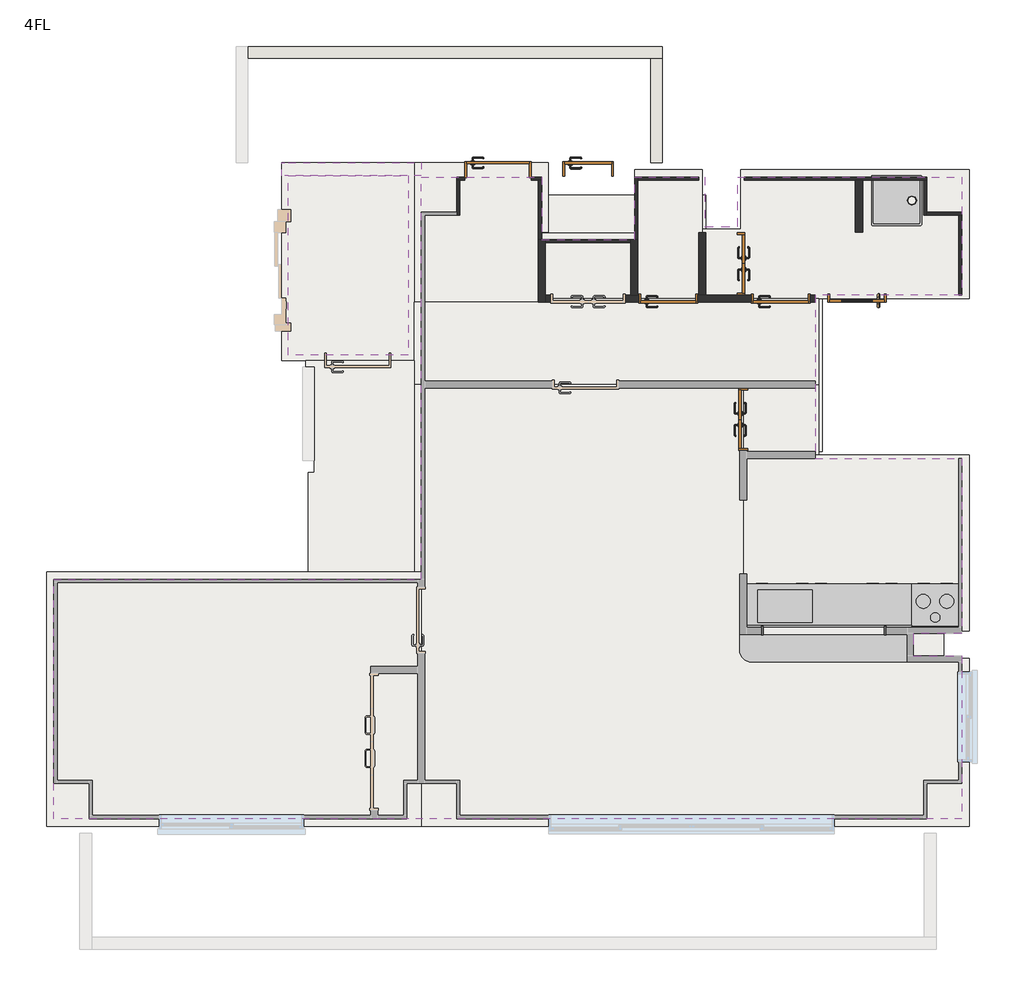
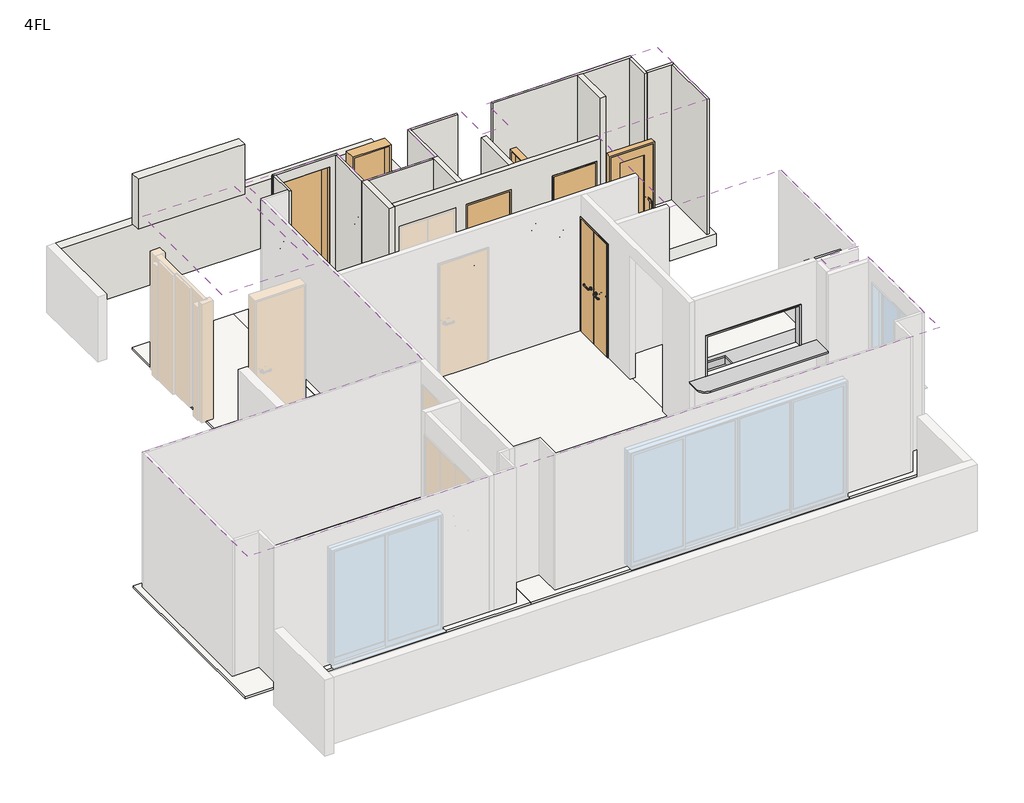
# One storey, part 2 of 2: 18 walls, 16 slabs, 7 doors, 2 coverings, 2 flow terminals, 1 furniture element, 1 proxy.
"""IFC4 building model written with IfcOpenShell, lengths in millimetres."""

from ifc_helpers import new_model, si_unit, frame, origin, place, context, project, spatial, polyline, outline, extrude, faceted_brep, transform, mapped, element, save
from components import w1550h700_1b11893a, w750h2000_bb28a540, w750h2000_3b39e6d6, w750h2000_741aa240, w750h2000_0d8cda2a, w600h2200_8a8f31b7, w700h2000_46fb6d5c, w700h2000_2dbcf825, w800h2200_b9bfe460, flow_terminal_9508bbe0, flow_terminal_4e89506a, furniture_a4760ea0

model = new_model("IFC4")

# Units and contexts
model_context = context("Model", 3, world=origin())
ifc_project = project(units=[si_unit("LENGTHUNIT", "METRE", prefix="MILLI")], contexts=[model_context])

# Site, building, storey
site = spatial("IfcSite", under=ifc_project)
building = spatial("IfcBuilding", under=site)
storey = spatial("IfcBuildingStorey", under=building, Name="4FL", Elevation=9395.0)

# Proxy
placement = place(None, origin())
w1550h700_shape = w1550h700_1b11893a(model_context)
element("IfcBuildingElementProxy", 1, Name="開口枠 - 鋼製 1 : W1550H700", ObjectType="開口枠 - 鋼製 1 : W1550H700", at=placement, inside=storey, context=model_context, shape_type="MappedRepresentation", body=[
    mapped(w1550h700_shape, transform((6358.2341012, -2426.3998484, 10395.0), x_axis=(-1.0, 0.0, 0.0), y_axis=(0.0, -1.0, 0.0), z_axis=(0.0, 0.0, 1.0))),
])

# Coverings
element("IfcCovering", 2, ObjectType="化粧石膏ボード", at=placement, inside=storey, context=model_context, shape_type="SweptSolid", body=[
    extrude(outline(polyline([(4710.7341012, 3378.6001516), (4710.7341012, 2746.1001516), (5135.7341012, 2746.1001516), (5135.7341012, 3378.6001516), (7998.2341012, 3378.6001516), (7998.2341012, 1868.6001516), (6123.2341012, 1868.6001516), (6123.2341012, -221.3998484), (7998.2341012, -221.3998484), (7998.2341012, -2458.8998484), (7375.7341012, -2458.8998484), (7375.7341012, -2748.8998484), (7998.2341012, -2748.8998484), (7998.2341012, -4831.3998484), (-3611.7658988, -4831.3998484), (-3611.7658988, -1771.3998484), (1088.2341012, -1771.3998484), (1088.2341012, 3378.6001516), (2623.2341012, 3378.6001516), (2623.2341012, 2578.6001516), (3813.2341012, 2578.6001516), (3813.2341012, 3378.6001516), (4710.7341012, 3378.6001516)])), frame((0.0, 0.0, 11795.0), z_axis=(0.0, 0.0, 1.0), x_axis=(1.0, 0.0, 0.0)), (0.0, 0.0, 1.0), 9.5),
])
element("IfcCovering", 3, ObjectType="化粧石膏ボード", at=placement, inside=storey, context=model_context, shape_type="SweptSolid", body=[
    extrude(outline(polyline([(918.2341012, 3398.6001516), (918.2341012, 1098.6001516), (-616.7658988, 1098.6001516), (-616.7658988, 3398.6001516), (918.2341012, 3398.6001516)])), frame((0.0, 0.0, 11795.0), z_axis=(0.0, 0.0, 1.0), x_axis=(1.0, 0.0, 0.0)), (0.0, 0.0, 1.0), 9.5),
])

# Doors
w750h2000_shape = w750h2000_bb28a540(model_context)
w750h2000_2_shape = w750h2000_3b39e6d6(model_context)
element("IfcDoor", 4, ObjectType="両開き : W750H2000", at=placement, inside=storey, context=model_context, shape_type="MappedRepresentation", body=[
    mapped(w750h2000_shape, transform((5203.2341012, 278.6001516, 9395.0), x_axis=(0.0, 1.0, 0.0), y_axis=(-1.0, 0.0, 0.0), z_axis=(0.0, 0.0, 1.0))),
    mapped(w750h2000_2_shape, transform((5203.2341012, 278.6001516, 9395.0), x_axis=(0.0, 1.0, 0.0), y_axis=(-1.0, 0.0, 0.0), z_axis=(0.0, 0.0, 1.0))),
])
w750h2000_3_shape = w750h2000_741aa240(model_context)
w750h2000_4_shape = w750h2000_0d8cda2a(model_context)
element("IfcDoor", 5, ObjectType="両開き : W750H2000", at=placement, inside=storey, context=model_context, shape_type="MappedRepresentation", body=[
    mapped(w750h2000_3_shape, transform((5174.4841012, 2268.6001516, 9395.0), x_axis=(0.0, -1.0, 0.0), y_axis=(1.0, 0.0, 0.0), z_axis=(0.0, 0.0, 1.0))),
    mapped(w750h2000_4_shape, transform((5174.4841012, 2268.6001516, 9395.0), x_axis=(0.0, -1.0, 0.0), y_axis=(1.0, 0.0, 0.0), z_axis=(0.0, 0.0, 1.0))),
])
w600h2200_shape = w600h2200_8a8f31b7(model_context)
element("IfcDoor", 6, ObjectType="片開き : w600h2200", at=placement, inside=storey, context=model_context, shape_type="MappedRepresentation", body=[
    mapped(w600h2200_shape, transform((3218.2341012, 3481.1001516, 9395.0), x_axis=(1.0, 0.0, 0.0), y_axis=(0.0, 1.0, 0.0), z_axis=(0.0, 0.0, 1.0))),
])
w700h2000_shape = w700h2000_46fb6d5c(model_context)
element("IfcDoor", 7, ObjectType="片開き : w700h2000", at=placement, inside=storey, context=model_context, shape_type="MappedRepresentation", body=[
    mapped(w700h2000_shape, transform((4243.2341012, 1823.6001516, 9395.0), x_axis=(1.0, 0.0, 0.0), y_axis=(0.0, 1.0, 0.0), z_axis=(0.0, 0.0, 1.0))),
])
element("IfcDoor", 8, ObjectType="片開き : w700h2000", at=placement, inside=storey, context=model_context, shape_type="MappedRepresentation", body=[
    mapped(w700h2000_shape, transform((5683.2341012, 1823.6001516, 9395.0), x_axis=(1.0, 0.0, 0.0), y_axis=(0.0, 1.0, 0.0), z_axis=(0.0, 0.0, 1.0))),
])
w700h2000_2_shape = w700h2000_2dbcf825(model_context)
element("IfcDoor", 9, ObjectType="片開き_ガラス四方框 : w700h2000", at=placement, inside=storey, context=model_context, shape_type="MappedRepresentation", body=[
    mapped(w700h2000_2_shape, transform((6658.2341012, 1829.8501516, 9395.0), x_axis=(-1.0, 0.0, 0.0), y_axis=(0.0, -1.0, 0.0), z_axis=(0.0, 0.0, 1.0))),
])
w800h2200_shape = w800h2200_b9bfe460(model_context)
element("IfcDoor", 10, ObjectType="片開き : w800h2200", at=placement, inside=storey, context=model_context, shape_type="MappedRepresentation", body=[
    mapped(w800h2200_shape, transform((2068.2341012, 3471.1001516, 9395.0), x_axis=(1.0, 0.0, 0.0), y_axis=(0.0, 1.0, 0.0), z_axis=(0.0, 0.0, 1.0))),
])

# Flow terminals
flow_terminal_shape = flow_terminal_9508bbe0(model_context)
element("IfcFlowTerminal", 11, ObjectType="洗濯機パン : 洗濯機パン", at=placement, inside=storey, context=model_context, shape_type="MappedRepresentation", body=[
    mapped(flow_terminal_shape, transform((7163.2341012, 3078.6001516, 9395.0), x_axis=(1.0, 0.0, 0.0), y_axis=(0.0, 1.0, 0.0), z_axis=(0.0, 0.0, 1.0))),
])
flow_terminal_2_shape = flow_terminal_4e89506a(model_context)
element("IfcFlowTerminal", 12, ObjectType="システムキッチンIH : システムキッチンIH\u3000W2710", at=placement, inside=storey, context=model_context, shape_type="MappedRepresentation", body=[
    mapped(flow_terminal_2_shape, transform((7958.2341012, -2381.3998484, 9395.0), x_axis=(1.0, 0.0, 0.0), y_axis=(0.0, 1.0, 0.0), z_axis=(0.0, 0.0, 1.0))),
])

# Furniture
furniture_shape = furniture_a4760ea0(model_context)
element("IfcFurniture", 13, ObjectType="キッチンカウンター : キッチンカウンター", at=placement, inside=storey, context=model_context, shape_type="MappedRepresentation", body=[
    mapped(furniture_shape, transform((7298.2341012, -2381.3998484, 9395.0), x_axis=(1.0, 0.0, 0.0), y_axis=(0.0, 1.0, 0.0), z_axis=(0.0, 0.0, 1.0))),
])

# Slabs
element("IfcSlab", 14, ObjectType="一般180mm", at=placement, inside=storey, context=model_context, shape_type="Brep", body=[
    faceted_brep([(918.2341012, -1751.3998484, 9180.0), (918.2341012, -1771.3998484, 9180.0), (918.2341012, -4601.3998484, 9180.0), (-3381.7658988, -4601.3998484, 9180.0), (-3381.7658988, -1771.3998484, 9180.0), (-3381.7658988, -1751.3998484, 9180.0), (918.2341012, -1751.3998484, 9360.0), (-3381.7658988, -1751.3998484, 9360.0), (-3381.7658988, -1771.3998484, 9360.0), (-3381.7658988, -4601.3998484, 9360.0), (918.2341012, -4601.3998484, 9360.0), (918.2341012, -1771.3998484, 9360.0)], [[[0, 1, 2, 3, 4, 5]], [[6, 7, 8, 9, 10, 11]], [[2, 1, 0, 6, 11, 10]], [[3, 2, 10, 9]], [[5, 4, 3, 9, 8, 7]], [[0, 5, 7, 6]]]),
])
element("IfcSlab", 15, ObjectType="一般180mm", at=placement, inside=storey, context=model_context, shape_type="SweptSolid", body=[
    extrude(outline(polyline([(918.2341012, 1298.6001516), (-481.7658988, 1298.6001516), (-481.7658988, 3148.6001516), (918.2341012, 3148.6001516), (918.2341012, 1298.6001516)])), frame((0.0, 0.0, 9180.0), z_axis=(0.0, 0.0, 1.0), x_axis=(1.0, 0.0, 0.0)), (0.0, 0.0, 1.0), 180.0),
])
element("IfcSlab", 16, ObjectType="一般180mm", at=placement, inside=storey, context=model_context, shape_type="SweptSolid", body=[
    extrude(outline(polyline([(7768.2341012, -481.3998484), (7768.2341012, -4601.3998484), (1318.2341012, -4601.3998484), (1318.2341012, -481.3998484), (7768.2341012, -481.3998484)])), frame((0.0, 0.0, 9180.0), z_axis=(0.0, 0.0, 1.0), x_axis=(1.0, 0.0, 0.0)), (0.0, 0.0, 1.0), 180.0),
])
element("IfcSlab", 17, ObjectType="一般180mm", at=placement, inside=storey, context=model_context, shape_type="Brep", body=[
    faceted_brep([(6213.2341012, -131.3998484, 9180.0), (5853.2341012, -131.3998484, 9180.0), (1318.2341012, -131.3998484, 9180.0), (1318.2341012, 3148.6001516, 9180.0), (4363.2341012, 3148.6001516, 9180.0), (4723.2341012, 3148.6001516, 9180.0), (4723.2341012, 1868.6001516, 9180.0), (6213.2341012, 1868.6001516, 9180.0), (6213.2341012, -131.3998484, 9360.0), (6213.2341012, 1868.6001516, 9360.0), (4723.2341012, 1868.6001516, 9360.0), (4723.2341012, 3148.6001516, 9360.0), (1318.2341012, 3148.6001516, 9360.0), (1318.2341012, -131.3998484, 9360.0)], [[[0, 1, 2, 3, 4, 5, 6, 7]], [[8, 9, 10, 11, 12, 13]], [[2, 1, 0, 8, 13]], [[3, 2, 13, 12]], [[5, 4, 3, 12, 11]], [[6, 5, 11, 10]], [[7, 6, 10, 9]], [[0, 7, 9, 8]]]),
])
element("IfcSlab", 18, ObjectType="一般180mm", at=placement, inside=storey, context=model_context, shape_type="SweptSolid", body=[
    extrude(outline(polyline([(918.2341012, -1601.3998484), (-356.7658988, -1601.3998484), (-356.7658988, -401.3998484), (-281.7658988, -401.3998484), (-281.7658988, -251.3998484), (-391.7658988, -251.3998484), (-391.7658988, 948.6001516), (918.2341012, 948.6001516), (918.2341012, -1601.3998484)])), frame((0.0, 0.0, 9180.0), z_axis=(0.0, 0.0, 1.0), x_axis=(1.0, 0.0, 0.0)), (0.0, 0.0, 1.0), 180.0),
])
element("IfcSlab", 19, ObjectType="磁器タイル", at=placement, inside=storey, context=model_context, shape_type="SweptSolid", body=[
    extrude(outline(polyline([(995.7341012, 1778.6001516), (995.7341012, 3563.6001516), (2708.2341012, 3563.6001516), (2708.2341012, 2673.6001516), (2628.2341012, 2673.6001516), (2628.2341012, 1778.6001516), (995.7341012, 1778.6001516)])), frame((0.0, 0.0, 9360.0), z_axis=(0.0, 0.0, 1.0), x_axis=(1.0, 0.0, 0.0)), (0.0, 0.0, 1.0), 35.0),
])
element("IfcSlab", 20, ObjectType="フローリング", at=placement, inside=storey, context=model_context, shape_type="SweptSolid", body=[
    extrude(outline(polyline([(2628.2341012, 1778.6001516), (2628.2341012, 1823.6001516), (6168.2341012, 1823.6001516), (6168.2341012, 723.6001516), (993.2341012, 723.6001516), (993.2341012, 1778.6001516), (2628.2341012, 1778.6001516)])), frame((0.0, 0.0, 9360.0), z_axis=(0.0, 0.0, 1.0), x_axis=(1.0, 0.0, 0.0)), (0.0, 0.0, 1.0), 35.0),
])
element("IfcSlab", 21, ObjectType="フローリング", at=placement, inside=storey, context=model_context, shape_type="SweptSolid", body=[
    extrude(outline(polyline([(3808.2341012, 1823.6001516), (3693.2341012, 1823.6001516), (2743.2341012, 1823.6001516), (2628.2341012, 1823.6001516), (2628.2341012, 2663.6001516), (3808.2341012, 2663.6001516), (3808.2341012, 1823.6001516)])), frame((0.0, 0.0, 9360.0), z_axis=(0.0, 0.0, 1.0), x_axis=(1.0, 0.0, 0.0)), (0.0, 0.0, 1.0), 35.0),
])
element("IfcSlab", 22, ObjectType="フローリング", at=placement, inside=storey, context=model_context, shape_type="SweptSolid", body=[
    extrude(outline(polyline([(4678.2341012, 1823.6001516), (3813.2341012, 1823.6001516), (3813.2341012, 3471.1001516), (4678.2341012, 3471.1001516), (4678.2341012, 1823.6001516)])), frame((0.0, 0.0, 9360.0), z_axis=(0.0, 0.0, 1.0), x_axis=(1.0, 0.0, 0.0)), (0.0, 0.0, 1.0), 35.0),
])
element("IfcSlab", 23, ObjectType="クッションフロアシート", at=placement, inside=storey, context=model_context, shape_type="SweptSolid", body=[
    extrude(outline(polyline([(4678.2341012, 2713.6001516), (5168.2341012, 2713.6001516), (5168.2341012, 3473.6001516), (8093.2341012, 3473.6001516), (8093.2341012, 1823.6001516), (4678.2341012, 1823.6001516), (4678.2341012, 2713.6001516)])), frame((0.0, 0.0, 9180.0), z_axis=(0.0, 0.0, 1.0), x_axis=(1.0, 0.0, 0.0)), (0.0, 0.0, 1.0), 215.0),
])
element("IfcSlab", 24, ObjectType="フローリング", at=placement, inside=storey, context=model_context, shape_type="Brep", body=[
    faceted_brep([(1083.2341012, -1676.3998484, 9360.0), (1083.2341012, -1751.3998484, 9360.0), (1083.2341012, -1771.3998484, 9360.0), (1083.2341012, -4926.3998484, 9360.0), (-3706.7658988, -4926.3998484, 9360.0), (-3706.7658988, -1676.3998484, 9360.0), (-3631.7658988, -1676.3998484, 9360.0), (1083.2341012, -1676.3998484, 9395.0), (-3631.7658988, -1676.3998484, 9395.0), (-3706.7658988, -1676.3998484, 9395.0), (-3706.7658988, -4926.3998484, 9395.0), (1083.2341012, -4926.3998484, 9395.0), (1083.2341012, -1771.3998484, 9395.0)], [[[0, 1, 2, 3, 4, 5, 6]], [[7, 8, 9, 10, 11, 12]], [[3, 2, 1, 0, 7, 12, 11]], [[4, 3, 11, 10]], [[5, 4, 10, 9]], [[0, 6, 5, 9, 8, 7]]]),
])
element("IfcSlab", 25, ObjectType="フローリング", at=placement, inside=storey, context=model_context, shape_type="Brep", body=[
    faceted_brep([(993.2341012, 723.6001516, 9360.0), (1068.2341012, 723.6001516, 9360.0), (1088.2341012, 723.6001516, 9360.0), (5203.2341012, 723.6001516, 9360.0), (5203.2341012, -2426.3998484, 9360.0), (7343.2341012, -2426.3998484, 9360.0), (7343.2341012, -2781.3998484, 9360.0), (8093.2341012, -2781.3998484, 9360.0), (8093.2341012, -4926.3998484, 9360.0), (1083.2341012, -4926.3998484, 9360.0), (1083.2341012, -1785.1498484, 9360.0), (993.2341012, -1785.1498484, 9360.0), (993.2341012, 723.6001516, 9395.0), (993.2341012, -1785.1498484, 9395.0), (1083.2341012, -1785.1498484, 9395.0), (1083.2341012, -4926.3998484, 9395.0), (8093.2341012, -4926.3998484, 9395.0), (8093.2341012, -2781.3998484, 9395.0), (7343.2341012, -2781.3998484, 9395.0), (7343.2341012, -2426.3998484, 9395.0), (5203.2341012, -2426.3998484, 9395.0), (5203.2341012, 723.6001516, 9395.0), (1088.2341012, 723.6001516, 9395.0)], [[[0, 1, 2, 3, 4, 5, 6, 7, 8, 9, 10, 11]], [[12, 13, 14, 15, 16, 17, 18, 19, 20, 21, 22]], [[0, 11, 13, 12]], [[3, 2, 1, 0, 12, 22, 21]], [[4, 3, 21, 20]], [[5, 4, 20, 19]], [[6, 5, 19, 18]], [[7, 6, 18, 17]], [[8, 7, 17, 16]], [[9, 8, 16, 15]], [[10, 9, 15, 14]], [[11, 10, 14, 13]]]),
])
element("IfcSlab", 26, ObjectType="フローリング", at=placement, inside=storey, context=model_context, shape_type="SweptSolid", body=[
    extrude(outline(polyline([(8093.2341012, -2426.3998484), (5203.2341012, -2426.3998484), (5203.2341012, -176.3998484), (8093.2341012, -176.3998484), (8093.2341012, -2426.3998484)])), frame((0.0, 0.0, 9360.0), z_axis=(0.0, 0.0, 1.0), x_axis=(1.0, 0.0, 0.0)), (0.0, 0.0, 1.0), 35.0),
])
element("IfcSlab", 27, ObjectType="フローリング", at=placement, inside=storey, context=model_context, shape_type="Brep", body=[
    faceted_brep([(6168.2341012, -176.3998484, 9360.0), (6123.2341012, -176.3998484, 9360.0), (5203.2341012, -176.3998484, 9360.0), (5203.2341012, 723.6001516, 9360.0), (6123.2341012, 723.6001516, 9360.0), (6168.2341012, 723.6001516, 9360.0), (6168.2341012, -176.3998484, 9395.0), (6168.2341012, 723.6001516, 9395.0), (6123.2341012, 723.6001516, 9395.0), (5203.2341012, 723.6001516, 9395.0), (5203.2341012, -176.3998484, 9395.0), (6123.2341012, -176.3998484, 9395.0)], [[[0, 1, 2, 3, 4, 5]], [[6, 7, 8, 9, 10, 11]], [[2, 1, 0, 6, 11, 10]], [[3, 2, 10, 9]], [[5, 4, 3, 9, 8, 7]], [[0, 5, 7, 6]]]),
])
element("IfcSlab", 28, ObjectType="防滑性長尺塩ビシート", at=placement, inside=storey, context=model_context, shape_type="Brep", body=[
    faceted_brep([(993.2341012, -1676.3998484, 9360.0), (-356.7658988, -1676.3998484, 9360.0), (-356.7658988, -401.3998484, 9360.0), (-281.7658988, -401.3998484, 9360.0), (-281.7658988, -251.3998484, 9360.0), (-391.7658988, -251.3998484, 9360.0), (-391.7658988, 1031.1001516, 9360.0), (918.2341012, 1031.1001516, 9360.0), (993.2341012, 1031.1001516, 9360.0), (993.2341012, 723.6001516, 9360.0), (993.2341012, -1676.3998484, 9395.0), (993.2341012, 723.6001516, 9395.0), (993.2341012, 1031.1001516, 9395.0), (918.2341012, 1031.1001516, 9395.0), (-391.7658988, 1031.1001516, 9395.0), (-391.7658988, -251.3998484, 9395.0), (-281.7658988, -251.3998484, 9395.0), (-281.7658988, -401.3998484, 9395.0), (-356.7658988, -401.3998484, 9395.0), (-356.7658988, -1676.3998484, 9395.0)], [[[0, 1, 2, 3, 4, 5, 6, 7, 8, 9]], [[10, 11, 12, 13, 14, 15, 16, 17, 18, 19]], [[1, 0, 10, 19]], [[8, 7, 6, 14, 13, 12]], [[0, 9, 8, 12, 11, 10]], [[6, 5, 15, 14]], [[2, 1, 19, 18]], [[3, 2, 18, 17]], [[4, 3, 17, 16]], [[5, 4, 16, 15]]]),
])
element("IfcSlab", 29, ObjectType="磁器タイル", at=placement, inside=storey, context=model_context, shape_type="SweptSolid", body=[
    extrude(outline(polyline([(995.7341012, 1031.1001516), (-699.2658988, 1031.1001516), (-699.2658988, 3563.6001516), (995.7341012, 3563.6001516), (995.7341012, 1031.1001516)])), frame((0.0, 0.0, 9360.0), z_axis=(0.0, 0.0, 1.0), x_axis=(1.0, 0.0, 0.0)), (0.0, 0.0, 1.0), 35.0),
])

# Walls
element("IfcWall", 30, ObjectType="標準-120mm+15mm+15mm", at=placement, inside=storey, context=model_context, shape_type="Brep", body=[
    faceted_brep([(4168.2341012, 4898.6001516, 10495.0), (4018.2341012, 4898.6001516, 10495.0), (-1131.7658988, 4898.6001516, 10495.0), (-1131.7658988, 4898.6001516, 9318.030303), (4168.2341012, 4898.6001516, 9318.030303), (-1131.7658988, 5048.6001516, 10495.0), (4168.2341012, 5048.6001516, 10495.0), (4168.2341012, 5048.6001516, 9315.0), (-1131.7658988, 5048.6001516, 9315.0)], [[[0, 1, 2, 3, 4]], [[5, 6, 7, 8]], [[2, 1, 0, 6, 5]], [[6, 0, 4, 7]], [[2, 5, 8, 3]], [[4, 3, 8, 7]]]),
])
element("IfcWall", 31, ObjectType="標準-120mm+15mm+15mm", at=placement, inside=storey, context=model_context, shape_type="SweptSolid", body=[
    extrude(outline(polyline([(3563.6001516, 10495.0), (4898.6001516, 10495.0), (4898.6001516, 9318.030303), (3563.6001516, 9345.0), (3563.6001516, 10495.0)])), frame((4018.2341012, 0.0, 0.0), z_axis=(1.0, 0.0, 0.0), x_axis=(0.0, 1.0, 0.0)), (0.0, 0.0, 1.0), 150.0),
])
element("IfcWall", 32, ObjectType="外壁-150mm+15mm", at=placement, inside=storey, context=model_context, shape_type="Brep", body=[
    faceted_brep([(-699.2658988, 3398.6001516, 11595.0), (-616.7658988, 3398.6001516, 11595.0), (903.2341012, 3398.6001516, 11595.0), (1088.2341012, 3398.6001516, 11595.0), (1088.2341012, 3398.6001516, 12480.0), (903.2341012, 3398.6001516, 12480.0), (-616.7658988, 3398.6001516, 12480.0), (-699.2658988, 3398.6001516, 12480.0), (-699.2658988, 3398.6001516, 11880.0), (-699.2658988, 3563.6001516, 11595.0), (-699.2658988, 3563.6001516, 12480.0), (1088.2341012, 3563.6001516, 12480.0), (1088.2341012, 3563.6001516, 11595.0), (903.2341012, 3563.6001516, 11595.0), (-616.7658988, 3563.6001516, 11595.0), (-699.2658988, 3548.6001516, 12480.0)], [[[0, 1, 2, 3, 4, 5, 6, 7, 8]], [[9, 10, 11, 12, 13, 14]], [[3, 2, 1, 0, 9, 14, 13, 12]], [[7, 6, 5, 4, 11, 10, 15]], [[0, 8, 7, 15, 10, 9]], [[4, 3, 12, 11]]]),
])
element("IfcWall", 33, ObjectType="標準-12.5mm+65ｍｍ+12.5mm", at=placement, inside=storey, context=model_context, shape_type="Brep", body=[
    faceted_brep([(3763.2341012, 2578.6001516, 9395.0), (3763.2341012, 2538.6001516, 9395.0), (3763.2341012, 1868.6001516, 9395.0), (3763.2341012, 1868.6001516, 11795.0), (3763.2341012, 2538.6001516, 11795.0), (3763.2341012, 2578.6001516, 11795.0), (3853.2341012, 2578.6001516, 9395.0), (3853.2341012, 2578.6001516, 11795.0), (3853.2341012, 1868.6001516, 11795.0), (3853.2341012, 1868.6001516, 9395.0)], [[[0, 1, 2, 3, 4, 5]], [[6, 7, 8, 9]], [[2, 1, 0, 6, 9]], [[5, 4, 3, 8, 7]], [[0, 5, 7, 6]], [[3, 2, 9, 8]]]),
])
element("IfcWall", 34, ObjectType="標準-12.5mm+65ｍｍ+12.5mm", at=placement, inside=storey, context=model_context, shape_type="Brep", body=[
    faceted_brep([(2583.2341012, 2578.6001516, 9395.0), (2583.2341012, 1778.6001516, 9395.0), (2583.2341012, 1778.6001516, 11795.0), (2583.2341012, 2578.6001516, 11795.0), (2673.2341012, 2578.6001516, 9395.0), (2673.2341012, 2578.6001516, 11795.0), (2673.2341012, 2538.6001516, 11795.0), (2673.2341012, 1868.6001516, 11795.0), (2673.2341012, 1778.6001516, 11795.0), (2673.2341012, 1778.6001516, 9395.0), (2673.2341012, 1868.6001516, 9395.0), (2673.2341012, 2538.6001516, 9395.0), (2595.7341012, 2578.6001516, 9395.0), (2623.2341012, 2578.6001516, 9395.0), (2623.2341012, 2578.6001516, 11795.0)], [[[0, 1, 2, 3]], [[4, 5, 6, 7, 8, 9, 10, 11]], [[1, 0, 12, 13, 4, 11, 10, 9]], [[3, 2, 8, 7, 6, 5, 14]], [[0, 3, 14, 5, 4, 13, 12]], [[2, 1, 9, 8]]]),
])
element("IfcWall", 35, ObjectType="標準-12.5mm+65ｍｍ+12.5mm（袖壁）", at=placement, inside=storey, context=model_context, shape_type="SweptSolid", body=[
    extrude(outline(polyline([(6728.2341012, 2673.6001516), (6638.2341012, 2673.6001516), (6638.2341012, 3338.6001516), (6728.2341012, 3338.6001516), (6728.2341012, 2673.6001516)])), frame((0.0, 0.0, 9395.0), z_axis=(0.0, 0.0, 1.0), x_axis=(1.0, 0.0, 0.0)), (0.0, 0.0, 1.0), 2400.0),
])
element("IfcWall", 36, ObjectType="標準-12.5mm+65ｍｍ+12.5mm", at=placement, inside=storey, context=model_context, shape_type="SweptSolid", body=[
    extrude(outline(polyline([(4723.2341012, 2668.6001516), (4723.2341012, 1868.6001516), (4633.2341012, 1868.6001516), (4633.2341012, 2668.6001516), (4723.2341012, 2668.6001516)])), frame((0.0, 0.0, 9395.0), z_axis=(0.0, 0.0, 1.0), x_axis=(1.0, 0.0, 0.0)), (0.0, 0.0, 1.0), 2400.0),
])
element("IfcWall", 37, ObjectType="標準-12.5mm+65ｍｍ+12.5mm", at=placement, inside=storey, context=model_context, shape_type="Brep", body=[
    faceted_brep([(2673.2341012, 1868.6001516, 11795.0), (3763.2341012, 1868.6001516, 11795.0), (3853.2341012, 1868.6001516, 11795.0), (4633.2341012, 1868.6001516, 11795.0), (4723.2341012, 1868.6001516, 11795.0), (6123.2341012, 1868.6001516, 11795.0), (6123.2341012, 1868.6001516, 9395.0), (6058.2341012, 1868.6001516, 9395.0), (6058.2341012, 1868.6001516, 11420.0), (5308.2341012, 1868.6001516, 11420.0), (5308.2341012, 1868.6001516, 9395.0), (4723.2341012, 1868.6001516, 9395.0), (4633.2341012, 1868.6001516, 9395.0), (4618.2341012, 1868.6001516, 9395.0), (4618.2341012, 1868.6001516, 11420.0), (3868.2341012, 1868.6001516, 11420.0), (3868.2341012, 1868.6001516, 9395.0), (3853.2341012, 1868.6001516, 9395.0), (3763.2341012, 1868.6001516, 9395.0), (3693.2341012, 1868.6001516, 9395.0), (3693.2341012, 1868.6001516, 11420.0), (2743.2341012, 1868.6001516, 11420.0), (2743.2341012, 1868.6001516, 9395.0), (2673.2341012, 1868.6001516, 9395.0), (6123.2341012, 1778.6001516, 11795.0), (2673.2341012, 1778.6001516, 11795.0), (2673.2341012, 1778.6001516, 9395.0), (2743.2341012, 1778.6001516, 9395.0), (2743.2341012, 1778.6001516, 11420.0), (3693.2341012, 1778.6001516, 11420.0), (3693.2341012, 1778.6001516, 9395.0), (3868.2341012, 1778.6001516, 9395.0), (3868.2341012, 1778.6001516, 11420.0), (4618.2341012, 1778.6001516, 11420.0), (4618.2341012, 1778.6001516, 9395.0), (5308.2341012, 1778.6001516, 9395.0), (5308.2341012, 1778.6001516, 11420.0), (6058.2341012, 1778.6001516, 11420.0), (6058.2341012, 1778.6001516, 9395.0), (6123.2341012, 1778.6001516, 9395.0)], [[[0, 1, 2, 3, 4, 5, 6, 7, 8, 9, 10, 11, 12, 13, 14, 15, 16, 17, 18, 19, 20, 21, 22, 23]], [[24, 25, 26, 27, 28, 29, 30, 31, 32, 33, 34, 35, 36, 37, 38, 39]], [[6, 39, 38, 7]], [[26, 23, 22, 27]], [[30, 19, 18, 17, 16, 31]], [[10, 35, 34, 13, 12, 11]], [[5, 4, 3, 2, 1, 0, 25, 24]], [[6, 5, 24, 39]], [[0, 23, 26, 25]], [[21, 28, 27, 22]], [[29, 20, 19, 30]], [[28, 21, 20, 29]], [[37, 8, 7, 38]], [[9, 36, 35, 10]], [[8, 37, 36, 9]], [[33, 14, 13, 34]], [[15, 32, 31, 16]], [[14, 33, 32, 15]]]),
])
element("IfcWall", 38, ObjectType="内壁-27.5mm+12.5", at=placement, inside=storey, context=model_context, shape_type="Brep", body=[
    faceted_brep([(2623.2341012, 3338.6001516, 11795.0), (2583.2341012, 3338.6001516, 11795.0), (1578.2341012, 3338.6001516, 11795.0), (1538.2341012, 3338.6001516, 11795.0), (1538.2341012, 3338.6001516, 9395.0), (1578.2341012, 3338.6001516, 9395.0), (1643.2341012, 3338.6001516, 9395.0), (1643.2341012, 3338.6001516, 11620.0), (2493.2341012, 3338.6001516, 11620.0), (2493.2341012, 3338.6001516, 9395.0), (2583.2341012, 3338.6001516, 9395.0), (2623.2341012, 3338.6001516, 9395.0), (1538.2341012, 3378.6001516, 11795.0), (2623.2341012, 3378.6001516, 11795.0), (2623.2341012, 3378.6001516, 9395.0), (2493.2341012, 3378.6001516, 9395.0), (2493.2341012, 3378.6001516, 11620.0), (1643.2341012, 3378.6001516, 11620.0), (1643.2341012, 3378.6001516, 9395.0), (1538.2341012, 3378.6001516, 9395.0), (1538.2341012, 3351.1001516, 9395.0), (1643.2341012, 3351.1001516, 9395.0), (2623.2341012, 3351.1001516, 9395.0), (2493.2341012, 3351.1001516, 9395.0)], [[[0, 1, 2, 3, 4, 5, 6, 7, 8, 9, 10, 11]], [[12, 13, 14, 15, 16, 17, 18, 19]], [[3, 2, 1, 0, 13, 12]], [[4, 20, 21, 6, 5]], [[22, 11, 10, 9, 23]], [[4, 3, 12, 19, 20]], [[20, 19, 18, 21]], [[14, 22, 23, 15]], [[0, 11, 22, 14, 13]], [[8, 16, 15, 23, 9]], [[17, 7, 6, 21, 18]], [[16, 8, 7, 17]]]),
])
element("IfcWall", 39, ObjectType="内壁-27.5mm+12.5", at=placement, inside=storey, context=model_context, shape_type="Brep", body=[
    faceted_brep([(1578.2341012, 2888.6001516, 9395.0), (1578.2341012, 3338.6001516, 9395.0), (1578.2341012, 3338.6001516, 11795.0), (1578.2341012, 2888.6001516, 11795.0), (1538.2341012, 2888.6001516, 9395.0), (1538.2341012, 2888.6001516, 11795.0), (1538.2341012, 2928.6001516, 11795.0), (1538.2341012, 3338.6001516, 11795.0), (1538.2341012, 3338.6001516, 9395.0), (1538.2341012, 2928.6001516, 9395.0), (1565.7341012, 2888.6001516, 9395.0), (1565.7341012, 3338.6001516, 9395.0)], [[[0, 1, 2, 3]], [[4, 5, 6, 7, 8, 9]], [[3, 2, 7, 6, 5]], [[1, 0, 10, 11]], [[2, 1, 11, 8, 7]], [[0, 3, 5, 4, 10]], [[10, 4, 9, 8, 11]]]),
])
element("IfcWall", 40, ObjectType="内壁-27.5mm+12.5", at=placement, inside=storey, context=model_context, shape_type="SweptSolid", body=[
    extrude(outline(polyline([(11795.0, 2583.2341012), (9395.0, 2583.2341012), (9395.0, 2595.7341012), (9395.0, 2623.2341012), (11795.0, 2623.2341012), (11795.0, 2583.2341012)])), frame((0.0, 2578.6001516, 0.0), z_axis=(0.0, 1.0, 0.0), x_axis=(0.0, 0.0, 1.0)), (0.0, 0.0, 1.0), 760.0),
])
element("IfcWall", 41, ObjectType="内壁-27.5mm+12.5", at=placement, inside=storey, context=model_context, shape_type="SweptSolid", body=[
    extrude(outline(polyline([(2538.6001516, 9395.0), (2538.6001516, 11795.0), (2578.6001516, 11795.0), (2578.6001516, 9395.0), (2551.1001516, 9395.0), (2538.6001516, 9395.0)])), frame((2673.2341012, 0.0, 0.0), z_axis=(1.0, 0.0, 0.0), x_axis=(0.0, 1.0, 0.0)), (0.0, 0.0, 1.0), 1090.0),
])
element("IfcWall", 42, ObjectType="内壁-27.5mm+12.5", at=placement, inside=storey, context=model_context, shape_type="Brep", body=[
    faceted_brep([(3853.2341012, 2578.6001516, 9395.0), (3853.2341012, 3338.6001516, 9395.0), (3853.2341012, 3378.6001516, 9395.0), (3853.2341012, 3378.6001516, 11795.0), (3853.2341012, 3338.6001516, 11795.0), (3853.2341012, 2578.6001516, 11795.0), (3813.2341012, 2578.6001516, 9395.0), (3813.2341012, 2578.6001516, 11795.0), (3813.2341012, 3378.6001516, 11795.0), (3813.2341012, 3378.6001516, 9395.0), (3840.7341012, 3378.6001516, 9395.0), (3840.7341012, 2578.6001516, 9395.0)], [[[0, 1, 2, 3, 4, 5]], [[6, 7, 8, 9]], [[3, 2, 10, 9, 8]], [[5, 4, 3, 8, 7]], [[0, 5, 7, 6, 11]], [[2, 1, 0, 11, 10]], [[11, 6, 9, 10]]]),
])
element("IfcWall", 43, ObjectType="内壁-27.5mm+12.5", at=placement, inside=storey, context=model_context, shape_type="SweptSolid", body=[
    extrude(outline(polyline([(3338.6001516, 9395.0), (3338.6001516, 11795.0), (3378.6001516, 11795.0), (3378.6001516, 9395.0), (3351.1001516, 9395.0), (3338.6001516, 9395.0)])), frame((3853.2341012, 0.0, 0.0), z_axis=(1.0, 0.0, 0.0), x_axis=(0.0, 1.0, 0.0)), (0.0, 0.0, 1.0), 780.0),
])
element("IfcWall", 44, ObjectType="内壁-27.5mm+12.5", at=placement, inside=storey, context=model_context, shape_type="Brep", body=[
    faceted_brep([(5213.2341012, 3338.6001516, 9395.0), (6638.2341012, 3338.6001516, 9395.0), (6728.2341012, 3338.6001516, 9395.0), (7508.2341012, 3338.6001516, 9395.0), (7548.2341012, 3338.6001516, 9395.0), (7548.2341012, 3338.6001516, 11795.0), (7508.2341012, 3338.6001516, 11795.0), (6728.2341012, 3338.6001516, 11795.0), (6638.2341012, 3338.6001516, 11795.0), (5213.2341012, 3338.6001516, 11795.0), (5213.2341012, 3378.6001516, 9395.0), (5213.2341012, 3378.6001516, 11760.0), (5213.2341012, 3378.6001516, 11795.0), (7548.2341012, 3378.6001516, 11795.0), (7548.2341012, 3378.6001516, 9395.0), (5213.2341012, 3351.1001516, 9395.0), (7548.2341012, 3351.1001516, 9395.0)], [[[0, 1, 2, 3, 4, 5, 6, 7, 8, 9]], [[10, 11, 12, 13, 14]], [[9, 8, 7, 6, 5, 13, 12]], [[4, 3, 2, 1, 0, 15, 16]], [[0, 9, 12, 11, 10, 15]], [[15, 10, 14, 16]], [[5, 4, 16, 14, 13]]]),
])
element("IfcWall", 45, ObjectType="内壁-27.5mm+12.5", at=placement, inside=storey, context=model_context, shape_type="Brep", body=[
    faceted_brep([(7508.2341012, 3338.6001516, 9395.0), (7508.2341012, 2888.6001516, 9395.0), (7508.2341012, 2888.6001516, 11795.0), (7508.2341012, 3338.6001516, 11795.0), (7548.2341012, 3338.6001516, 9395.0), (7548.2341012, 3338.6001516, 11795.0), (7548.2341012, 2928.6001516, 11795.0), (7548.2341012, 2888.6001516, 11795.0), (7548.2341012, 2888.6001516, 9395.0), (7548.2341012, 2928.6001516, 9395.0), (7520.7341012, 3338.6001516, 9395.0), (7520.7341012, 2888.6001516, 9395.0)], [[[0, 1, 2, 3]], [[4, 5, 6, 7, 8, 9]], [[3, 2, 7, 6, 5]], [[1, 0, 10, 11]], [[0, 3, 5, 4, 10]], [[10, 4, 9, 8, 11]], [[2, 1, 11, 8, 7]]]),
])
element("IfcWall", 46, ObjectType="内壁-27.5mm+12.5", at=placement, inside=storey, context=model_context, shape_type="Brep", body=[
    faceted_brep([(7548.2341012, 2888.6001516, 9395.0), (7958.2341012, 2888.6001516, 9395.0), (7998.2341012, 2888.6001516, 9395.0), (7998.2341012, 2888.6001516, 11795.0), (7958.2341012, 2888.6001516, 11795.0), (7548.2341012, 2888.6001516, 11795.0), (7548.2341012, 2928.6001516, 9395.0), (7548.2341012, 2928.6001516, 11795.0), (7998.2341012, 2928.6001516, 11795.0), (7998.2341012, 2928.6001516, 9395.0), (7548.2341012, 2901.1001516, 9395.0), (7998.2341012, 2901.1001516, 9395.0)], [[[0, 1, 2, 3, 4, 5]], [[6, 7, 8, 9]], [[5, 4, 3, 8, 7]], [[2, 1, 0, 10, 11]], [[0, 5, 7, 6, 10]], [[10, 6, 9, 11]], [[3, 2, 11, 9, 8]]]),
])
element("IfcWall", 47, ObjectType="内壁-27.5mm+12.5", at=placement, inside=storey, context=model_context, shape_type="SweptSolid", body=[
    extrude(outline(polyline([(11795.0, 7958.2341012), (9395.0, 7958.2341012), (9395.0, 7970.7341012), (9395.0, 7998.2341012), (11795.0, 7998.2341012), (11795.0, 7958.2341012)])), frame((0.0, 1868.6001516, 0.0), z_axis=(0.0, 1.0, 0.0), x_axis=(0.0, 0.0, 1.0)), (0.0, 0.0, 1.0), 1020.0),
])

save(model, "model.ifc")
